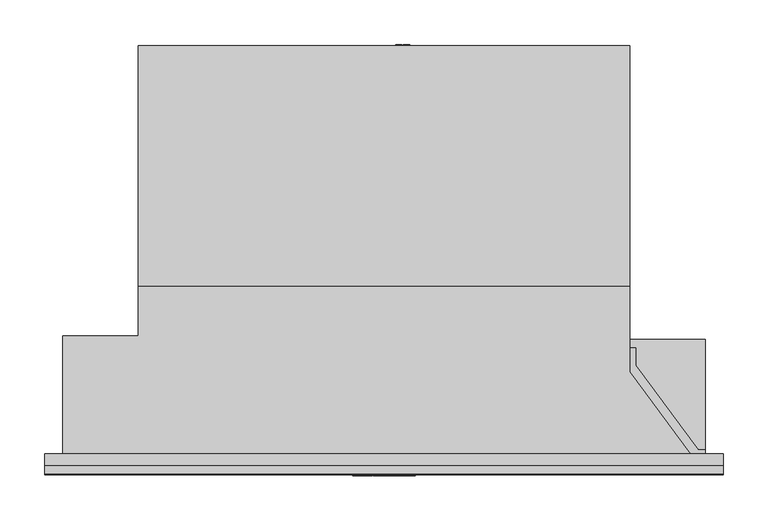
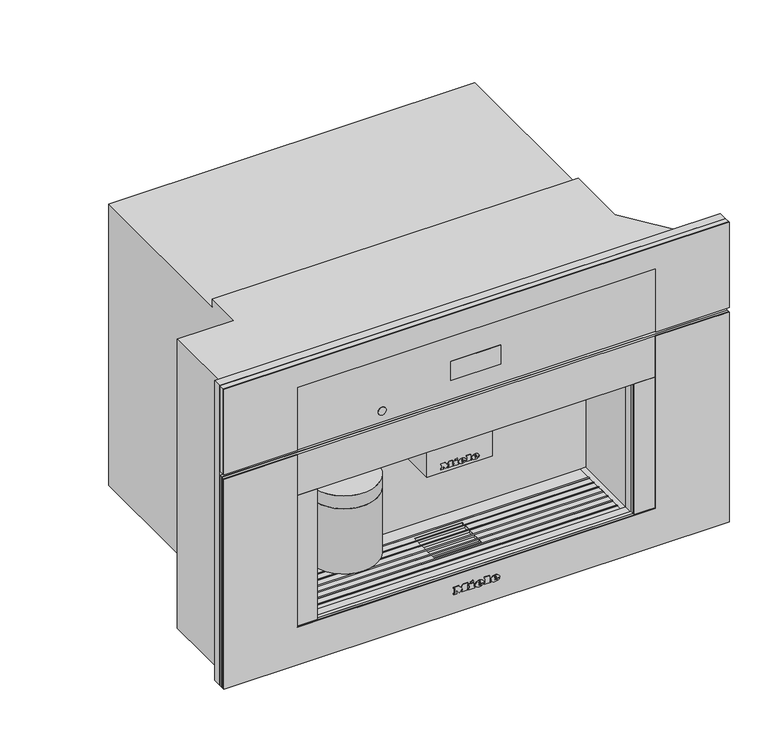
"""IFC4 building model written with IfcOpenShell, lengths in millimetres: proxy geometry, 11733830_USA_CVA7370_EDST-CLST : 29737040_USA_11733830_CVA7370_EDST-CLST."""

from ifc_helpers import new_model, si_unit, point, frame, frame_2d, origin, place, context, project, spatial, polyline, circle_curve, ellipse_curve, trimmed, segment, composite_curve, outline, extrude, faceted_brep, source, transform, mapped, element, save
from ifc_brep_helpers import plane_surface, cylinder_surface, revolved_surface, extruded_surface, advanced_brep


def specialty_equipment_d40f22d0(model_context):
    return source(origin(), model_context, "Body", "SolidModel", [
        extrude(outline(composite_curve([segment(trimmed(circle_curve(frame_2d((-14.0, 36.5)), 5.0), [point((-9.0, 36.5))], [point((-19.0, 36.5))], False, "CARTESIAN"), True, "CONTINUOUS"), segment(trimmed(circle_curve(frame_2d((-14.0, 36.5)), 5.0), [point((-19.0, 36.5))], [point((-9.0, 36.5))], False, "CARTESIAN"), True, "CONTINUOUS")], self_intersect=False)), frame((0.0, 0.0, 193.0), z_axis=(0.0, 0.0, 1.0), x_axis=(1.0, 0.0, 0.0)), (0.0, 0.0, 1.0), 5.0),
        extrude(outline(composite_curve([segment(trimmed(circle_curve(frame_2d((14.0, 36.5)), 5.0), [point((19.0, 36.5))], [point((9.0, 36.5))], False, "CARTESIAN"), True, "CONTINUOUS"), segment(trimmed(circle_curve(frame_2d((14.0, 36.5)), 5.0), [point((9.0, 36.5))], [point((19.0, 36.5))], False, "CARTESIAN"), True, "CONTINUOUS")], self_intersect=False)), frame((0.0, 0.0, 193.0), z_axis=(0.0, 0.0, 1.0), x_axis=(1.0, 0.0, 0.0)), (0.0, 0.0, 1.0), 5.0),
        extrude(outline(composite_curve([segment(trimmed(circle_curve(frame_2d((-156.5, 49.5)), 50.0), [point((-106.5, 49.5))], [point((-206.5, 49.5))], False, "CARTESIAN"), True, "CONTINUOUS"), segment(trimmed(circle_curve(frame_2d((-156.5, 49.5)), 50.0), [point((-206.5, 49.5))], [point((-106.5, 49.5))], False, "CARTESIAN"), True, "CONTINUOUS")], self_intersect=False)), frame((0.0, 0.0, 100.0), z_axis=(0.0, 0.0, 1.0), x_axis=(1.0, 0.0, 0.0)), (0.0, 0.0, 1.0), 103.0),
        extrude(outline(polyline([(-49.0, 95.0), (49.0, 95.0), (49.0, 20.0), (-49.0, 20.0), (-49.0, 95.0)])), frame((0.0, 0.0, 198.0), z_axis=(0.0, 0.0, 1.0), x_axis=(1.0, 0.0, 0.0)), (0.0, 0.0, 1.0), 75.0),
        extrude(outline(polyline([(479.0, 378.5), (479.0, -378.5), (4.0, -378.5), (4.0, 378.5), (479.0, 378.5)]), holes=[polyline([(273.0, 237.5), (63.0, 237.5), (63.0, -237.5), (273.0, -237.5), (273.0, 237.5)])]), frame((0.0, -13.0, 0.0), z_axis=(0.0, 1.0, 0.0), x_axis=(0.0, 0.0, 1.0)), (0.0, 0.0, 1.0), 13.0),
        extrude(outline(polyline([(281.0, 118.7), (281.0, 99.0591954), (350.457423, 4.7), (358.5, 4.7), (358.5, 0.0), (341.5, 0.0), (274.0, 91.7), (274.0, 118.7), (281.0, 118.7)])), frame((0.0, 0.0, 45.0), z_axis=(0.0, 0.0, 1.0), x_axis=(1.0, 0.0, 0.0)), (0.0, 0.0, 1.0), 34.0),
        faceted_brep([(-22.0, 400.0, 133.0), (55.0, 400.0, 133.0), (55.0, 400.0, 66.0), (35.0, 400.0, 66.0), (-22.0, 400.0, 89.0), (-22.0, 456.0, 133.0), (55.0, 456.0, 133.0), (55.0, 456.0, 66.0), (35.0, 456.0, 66.0), (-22.0, 456.0, 89.0), (358.5, 0.0, 0.0), (358.5, 127.7, 0.0), (358.5, 127.7, 45.0), (358.5, 0.0, 45.0), (-358.5, 0.0, 0.0), (-358.5, 0.0, 458.0), (-358.5, 131.7, 458.0), (-358.5, 131.7, 0.0), (-274.0, 131.7, 0.0), (-274.0, 456.0, 0.0), (274.0, 456.0, 0.0), (274.0, 127.7, 0.0), (274.0, 456.0, 446.0), (-274.0, 456.0, 446.0), (274.0, 187.0, 446.0), (-274.0, 187.0, 446.0), (274.0, 187.0, 458.0), (-274.0, 187.0, 458.0), (341.5, 0.0, 458.0), (274.0, 91.7, 458.0), (-274.0, 131.7, 458.0), (341.5, 0.0, 45.0), (237.5, 0.0, 273.0), (237.5, 0.0, 63.0), (229.5, 0.0, 63.0), (229.5, 0.0, 62.0), (-229.5, 0.0, 62.0), (-229.5, 0.0, 63.0), (-237.5, 0.0, 63.0), (-237.5, 0.0, 273.0), (237.5, 104.5, 273.0), (-237.5, 104.5, 273.0), (-237.5, 104.5, 63.0), (-229.5, 104.5, 63.0), (-229.5, 104.5, 62.0), (229.5, 104.5, 62.0), (229.5, 104.5, 63.0), (237.5, 104.5, 63.0), (-36.0, 76.0, 62.0), (36.0, 76.0, 62.0), (36.0, 25.0, 62.0), (-36.0, 25.0, 62.0), (36.0, 76.0, 58.0), (-36.0, 76.0, 58.0), (-36.0, 25.0, 58.0), (36.0, 25.0, 58.0), (274.0, 91.7, 45.0), (274.0, 127.7, 45.0)], [[[0, 1, 2, 3, 4]], [[1, 0, 5, 6]], [[2, 1, 6, 7]], [[3, 2, 7, 8]], [[4, 3, 8, 9]], [[0, 4, 9, 5]], [[10, 11, 12, 13]], [[14, 15, 16, 17]], [[10, 14, 17, 18, 19, 20, 21, 11]], [[22, 20, 19, 23], [6, 5, 9, 8, 7]], [[24, 22, 23, 25]], [[26, 24, 25, 27]], [[15, 28, 29, 26, 27, 30, 16]], [[15, 14, 10, 13, 31, 28], [32, 33, 34, 35, 36, 37, 38, 39]], [[40, 41, 42, 43, 44, 45, 46, 47]], [[40, 47, 33, 32]], [[33, 47, 46, 34]], [[42, 38, 37, 43]], [[42, 41, 39, 38]], [[41, 40, 32, 39]], [[45, 44, 36, 35], [48, 49, 50, 51]], [[36, 44, 43, 37]], [[45, 35, 34, 46]], [[52, 53, 54, 55]], [[53, 52, 49, 48]], [[54, 53, 48, 51]], [[55, 54, 51, 50]], [[52, 55, 50, 49]], [[21, 20, 22, 24, 26, 29, 56, 57]], [[18, 30, 27, 25, 23, 19]], [[11, 21, 57, 12]], [[57, 56, 31, 13, 12]], [[30, 18, 17, 16]], [[31, 56, 29, 28]]]),
        extrude(outline(polyline([(99.0, 28.8772152), (109.045631, 28.8772152), (109.045631, 21.6569179), (107.7899271, 21.6569179), (107.7899271, 27.6215114), (104.8076304, 27.6215114), (104.8076304, 21.9708439), (103.5519266, 21.9708439), (103.5519266, 27.6215114), (100.2557039, 27.6215114), (100.2557039, 21.499955), (99.0, 21.499955), (99.0, 28.8772152)])), frame((0.0, 456.0, 0.0), z_axis=(0.0, 1.0, 0.0), x_axis=(0.0, 0.0, 1.0)), (0.0, 0.0, 1.0), 1.0),
        extrude(outline(polyline([(99.0, 19.6163991), (109.045631, 19.6163991), (109.045631, 18.3606953), (100.2557039, 18.3606953), (100.2557039, 13.3378798), (99.0, 13.3378798), (99.0, 19.6163991)])), frame((0.0, 456.0, 0.0), z_axis=(0.0, 1.0, 0.0), x_axis=(0.0, 0.0, 1.0)), (0.0, 0.0, 1.0), 1.0),
        advanced_brep(
        [(55.0, 425.5, 104.0), (55.0, 410.5, 104.0), (28.5, 425.5, 104.0), (13.5, 410.5, 104.0), (28.5, 456.0, 104.0), (13.5, 456.0, 104.0)],
        [
            (0, 1, circle_curve(frame((55.0, 418.0, 104.0), z_axis=(1.0, 0.0, 0.0), x_axis=(0.0, -1.0, 0.0)), 7.5)),
            (1, 0, circle_curve(frame((55.0, 418.0, 104.0), z_axis=(1.0, 0.0, 0.0), x_axis=(0.0, -1.0, 0.0)), 7.5)),
            (0, 2),
            (2, 3, ellipse_curve(frame((21.0, 418.0, 104.0), z_axis=(0.7071067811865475, -0.7071067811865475, 0.0), x_axis=(0.7071067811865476, 0.7071067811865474, 0.0)), 10.6066017, 7.5)),
            (3, 1),
            (3, 2, ellipse_curve(frame((21.0, 418.0, 104.0), z_axis=(0.7071067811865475, -0.7071067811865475, 0.0), x_axis=(0.7071067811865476, 0.7071067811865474, 0.0)), 10.6066017, 7.5)),
            (4, 5, circle_curve(frame((21.0, 456.0, 104.0), z_axis=(0.0, 1.0, 0.0), x_axis=(-1.0, 0.0, 0.0)), 7.5)),
            (5, 4, circle_curve(frame((21.0, 456.0, 104.0), z_axis=(0.0, 1.0, 0.0), x_axis=(-1.0, 0.0, 0.0)), 7.5)),
            (2, 4),
            (5, 3),
        ],
        [
            plane_surface(frame((55.0, 418.0, 104.0), z_axis=(1.0, 0.0, 0.0), x_axis=(0.0, 0.0, 1.0))),
            cylinder_surface(frame((55.0, 418.0, 104.0), z_axis=(1.0, 0.0, 0.0), x_axis=(0.0, -1.0, 0.0)), 7.5),
            plane_surface(frame((21.0, 456.0, 104.0), z_axis=(0.0, 1.0, 0.0), x_axis=(0.0, 0.0, 1.0))),
            cylinder_surface(frame((21.0, 418.0, 104.0), z_axis=(0.0, -1.0, 0.0), x_axis=(-1.0, 0.0, 0.0)), 7.5),
        ],
        [
            (0, [[1, 2]]),
            (1, [[-1, 3, 4, 5]]),
            (1, [[-2, -5, 6, -3]]),
            (2, [[7, 8]]),
            (3, [[-4, 9, -8, 10]]),
            (3, [[-6, -10, -7, -9]]),
        ],
    ),
        advanced_brep(
        [(-110.0, 49.5, 252.0), (-203.0, 49.5, 252.0), (-206.5, 49.5, 223.5), (-106.5, 49.5, 223.5), (-110.0, 49.5, 273.0), (-203.0, 49.5, 273.0), (-156.5, 49.5, 273.0), (-106.5, 49.5, 203.0), (-206.5, 49.5, 203.0), (-156.5, 49.5, 203.0)],
        [
            (0, 1, circle_curve(frame((-156.5, 49.5, 252.0), z_axis=(0.0, 0.0, -1.0), x_axis=(-1.0, 0.0, 0.0)), 46.5)),
            (1, 2, circle_curve(frame((-206.7961166, 49.5, 238.0012775), z_axis=(0.0, 1.0, 0.0), x_axis=(-1.0, 0.0, 0.0)), 14.5043005)),
            (2, 3, circle_curve(frame((-156.5, 49.5, 223.5), z_axis=(0.0, 0.0, 1.0), x_axis=(-1.0, 0.0, 0.0)), 50.0)),
            (3, 0, circle_curve(frame((-106.2038834, 49.5, 238.0012775), z_axis=(0.0, 1.0, 0.0), x_axis=(1.0, 0.0, 0.0)), 14.5043005)),
            (4, 5, circle_curve(frame((-156.5, 49.5, 273.0), z_axis=(0.0, 0.0, -1.0), x_axis=(-1.0, 0.0, 0.0)), 46.5)),
            (5, 1),
            (0, 4),
            (6, 4),
            (4, 5, circle_curve(frame((-156.5, 49.5, 273.0), z_axis=(0.0, 0.0, 1.0), x_axis=(-1.0, 0.0, 0.0)), 46.5)),
            (5, 6),
            (7, 8, circle_curve(frame((-156.5, 49.5, 203.0), z_axis=(0.0, 0.0, -1.0), x_axis=(-1.0, 0.0, 0.0)), 50.0)),
            (8, 9),
            (9, 7),
            (8, 7, circle_curve(frame((-156.5, 49.5, 203.0), z_axis=(0.0, 0.0, -1.0), x_axis=(-1.0, 0.0, 0.0)), 50.0)),
            (2, 8),
            (7, 3),
            (2, 3, circle_curve(frame((-156.5, 49.5, 223.5), z_axis=(0.0, 0.0, -1.0), x_axis=(-1.0, 0.0, 0.0)), 50.0)),
            (1, 0, circle_curve(frame((-156.5, 49.5, 252.0), z_axis=(0.0, 0.0, -1.0), x_axis=(-1.0, 0.0, 0.0)), 46.5)),
        ],
        [
            revolved_surface(trimmed(ellipse_curve(frame((-206.7961166, 49.5, 238.0012775), z_axis=(0.0, -1.0, 0.0), x_axis=(-1.0, 0.0, 0.0)), 14.5043005, 14.5043005), [point((-206.5, 49.5, 223.5))], [point((-203.0, 49.5, 252.0))], True, "CARTESIAN"), (-156.5, 49.5, 388.7361736), (0.0, 0.0, 1.0)),
            cylinder_surface(frame((-156.5, 49.5, 388.7361736), z_axis=(0.0, 0.0, 1.0), x_axis=(-1.0, 0.0, 0.0)), 46.5),
            plane_surface(frame((-156.5, 49.5, 273.0), z_axis=(0.0, 0.0, 1.0), x_axis=(-1.0, 0.0, 0.0))),
            plane_surface(frame((-156.5, 49.5, 203.0), z_axis=(0.0, 0.0, -1.0), x_axis=(-1.0, 0.0, 0.0))),
            cylinder_surface(frame((-156.5, 49.5, 388.7361736), z_axis=(0.0, 0.0, 1.0), x_axis=(-1.0, 0.0, 0.0)), 50.0),
        ],
        [
            (0, [[1, 2, 3, 4]]),
            (1, [[5, 6, -1, 7]]),
            (2, [[8, 9, 10]]),
            (3, [[11, 12, 13]]),
            (3, [[14, -13, -12]]),
            (4, [[-3, 15, -11, 16]]),
            (4, [[17, -16, -14, -15]]),
            (0, [[18, -4, -17, -2]]),
            (1, [[-9, -7, -18, -6]]),
            (2, [[-10, -5, -8]]),
        ],
    ),
        faceted_brep([(229.5, 82.0925571, 60.0), (229.5, 80.0925571, 60.0), (-229.5, 80.0925571, 60.0), (-229.5, 82.0925571, 60.0), (229.5, 70.0550731, 60.0), (229.5, 68.0550731, 60.0), (-229.5, 68.0550731, 60.0), (-229.5, 70.0550731, 60.0), (229.5, 58.0175891, 60.0), (229.5, 56.0175891, 60.0), (-229.5, 56.0175891, 60.0), (-229.5, 58.0175891, 60.0), (229.5, 45.9801052, 60.0), (229.5, 43.9801052, 60.0), (-229.5, 43.9801052, 60.0), (-229.5, 45.9801052, 60.0), (229.5, 33.9426212, 60.0), (229.5, 31.9426212, 60.0), (-229.5, 31.9426212, 60.0), (-229.5, 33.9426212, 60.0), (229.5, 21.9776522, 60.0), (229.5, 19.9776522, 60.0), (-229.5, 19.9776522, 60.0), (-229.5, 21.9776522, 60.0), (229.5, 10.0, 60.0), (229.5, 8.0, 60.0), (-229.5, 8.0, 60.0), (-229.5, 10.0, 60.0), (-229.5, 45.9801052, 62.0), (-36.0, 45.9801052, 62.0), (-36.0, 45.9801052, 63.0), (-229.5, 45.9801052, 63.0), (-229.5, 45.9801052, 63.5), (229.5, 45.9801052, 63.5), (229.5, 45.9801052, 63.0), (36.0, 45.9801052, 63.0), (36.0, 45.9801052, 62.0), (229.5, 45.9801052, 62.0), (229.5, 19.9776522, 62.0), (229.5, 10.0, 62.0), (-229.5, 10.0, 62.0), (-229.5, 19.9776522, 62.0), (229.5, 43.9801052, 62.0), (229.5, 33.9426212, 62.0), (36.0, 33.9426212, 62.0), (36.0, 43.9801052, 62.0), (229.5, 56.0175891, 62.0), (36.0, 56.0175891, 62.0), (229.5, 68.0550731, 62.0), (229.5, 58.0175891, 62.0), (36.0, 58.0175891, 62.0), (36.0, 68.0550731, 62.0), (-229.5, 33.9426212, 62.0), (-229.5, 43.9801052, 62.0), (-36.0, 43.9801052, 62.0), (-36.0, 33.9426212, 62.0), (-229.5, 56.0175891, 62.0), (-36.0, 56.0175891, 62.0), (-229.5, 58.0175891, 62.0), (-229.5, 68.0550731, 62.0), (-36.0, 68.0550731, 62.0), (-36.0, 58.0175891, 62.0), (-229.5, 104.5, 62.0), (229.5, 104.5, 62.0), (229.5, 82.0925571, 62.0), (-229.5, 82.0925571, 62.0), (36.0, 76.0, 62.0), (-36.0, 76.0, 62.0), (-36.0, 70.0550731, 62.0), (-229.5, 70.0550731, 62.0), (-229.5, 80.0925571, 62.0), (229.5, 80.0925571, 62.0), (229.5, 70.0550731, 62.0), (36.0, 70.0550731, 62.0), (229.5, 0.0, 62.0), (-229.5, 0.0, 62.0), (-229.5, 8.0, 62.0), (229.5, 8.0, 62.0), (-36.0, 25.0, 62.0), (36.0, 25.0, 62.0), (36.0, 31.9426212, 62.0), (229.5, 31.9426212, 62.0), (229.5, 21.9776522, 62.0), (-229.5, 21.9776522, 62.0), (-229.5, 31.9426212, 62.0), (-36.0, 31.9426212, 62.0), (229.5, 104.5, 63.0), (-229.5, 104.5, 63.0), (-229.5, 82.0925571, 63.0), (229.5, 82.0925571, 63.0), (-229.5, 0.0, 63.0), (229.5, 0.0, 63.0), (229.5, 8.0, 63.0), (-229.5, 8.0, 63.0), (-36.0, 76.0, 63.0), (36.0, 76.0, 63.0), (36.0, 70.0550731, 63.0), (229.5, 70.0550731, 63.0), (229.5, 80.0925571, 63.0), (-229.5, 80.0925571, 63.0), (-229.5, 70.0550731, 63.0), (-36.0, 70.0550731, 63.0), (36.0, 25.0, 63.0), (-36.0, 25.0, 63.0), (-36.0, 31.9426212, 63.0), (-229.5, 31.9426212, 63.0), (-229.5, 21.9776522, 63.0), (229.5, 21.9776522, 63.0), (229.5, 31.9426212, 63.0), (36.0, 31.9426212, 63.0), (-229.5, 19.9776522, 63.0), (-229.5, 10.0, 63.0), (229.5, 10.0, 63.0), (229.5, 19.9776522, 63.0), (-229.5, 43.9801052, 63.0), (-229.5, 33.9426212, 63.0), (-36.0, 33.9426212, 63.0), (-36.0, 43.9801052, 63.0), (-229.5, 56.0175891, 63.0), (-36.0, 56.0175891, 63.0), (-229.5, 68.0550731, 63.0), (-229.5, 58.0175891, 63.0), (-36.0, 58.0175891, 63.0), (-36.0, 68.0550731, 63.0), (229.5, 33.9426212, 63.0), (229.5, 43.9801052, 63.0), (36.0, 43.9801052, 63.0), (36.0, 33.9426212, 63.0), (229.5, 56.0175891, 63.0), (36.0, 56.0175891, 63.0), (229.5, 58.0175891, 63.0), (229.5, 68.0550731, 63.0), (36.0, 68.0550731, 63.0), (36.0, 58.0175891, 63.0), (-229.5, 8.0, 63.5), (-229.5, 10.0, 63.5), (-229.5, 19.9776522, 63.5), (-229.5, 21.9776522, 63.5), (-229.5, 31.9426212, 63.5), (-229.5, 33.9426212, 63.5), (-229.5, 43.9801052, 63.5), (-229.5, 56.0175891, 63.5), (-229.5, 58.0175891, 63.5), (-229.5, 68.0550731, 63.5), (-229.5, 70.0550731, 63.5), (-229.5, 80.0925571, 63.5), (-229.5, 82.0925571, 63.5), (229.5, 82.0925571, 63.5), (229.5, 80.0925571, 63.5), (229.5, 70.0550731, 63.5), (229.5, 68.0550731, 63.5), (229.5, 58.0175891, 63.5), (229.5, 56.0175891, 63.5), (229.5, 43.9801052, 63.5), (229.5, 33.9426212, 63.5), (229.5, 31.9426212, 63.5), (229.5, 21.9776522, 63.5), (229.5, 19.9776522, 63.5), (229.5, 10.0, 63.5), (229.5, 8.0, 63.5)], [[[0, 1, 2, 3]], [[4, 5, 6, 7]], [[8, 9, 10, 11]], [[12, 13, 14, 15]], [[16, 17, 18, 19]], [[20, 21, 22, 23]], [[24, 25, 26, 27]], [[12, 15, 28, 29, 30, 31, 32, 33, 34, 35, 36, 37]], [[38, 39, 40, 41]], [[42, 43, 44, 45]], [[46, 37, 36, 47]], [[48, 49, 50, 51]], [[52, 53, 54, 55]], [[28, 56, 57, 29]], [[58, 59, 60, 61]], [[62, 63, 64, 65]], [[66, 67, 68, 69, 70, 71, 72, 73]], [[74, 75, 76, 77]], [[78, 79, 80, 81, 82, 83, 84, 85]], [[86, 87, 88, 89]], [[90, 91, 92, 93]], [[94, 95, 96, 97, 98, 99, 100, 101]], [[102, 103, 104, 105, 106, 107, 108, 109]], [[110, 111, 112, 113]], [[114, 115, 116, 117]], [[118, 31, 30, 119]], [[120, 121, 122, 123]], [[124, 125, 126, 127]], [[34, 128, 129, 35]], [[130, 131, 132, 133]], [[63, 62, 87, 86]], [[87, 62, 65, 3, 2, 70, 69, 7, 6, 59, 58, 11, 10, 56, 28, 15, 14, 53, 52, 19, 18, 84, 83, 23, 22, 41, 40, 27, 26, 76, 75, 90, 93, 134, 135, 111, 110, 136, 137, 106, 105, 138, 139, 115, 114, 140, 32, 31, 118, 141, 142, 121, 120, 143, 144, 100, 99, 145, 146, 88]], [[75, 74, 91, 90]], [[63, 86, 89, 147, 148, 98, 97, 149, 150, 131, 130, 151, 152, 128, 34, 33, 153, 125, 124, 154, 155, 108, 107, 156, 157, 113, 112, 158, 159, 92, 91, 74, 77, 25, 24, 39, 38, 21, 20, 82, 81, 17, 16, 43, 42, 13, 12, 37, 46, 9, 8, 49, 48, 5, 4, 72, 71, 1, 0, 64]], [[66, 95, 94, 67]], [[55, 54, 117, 116]], [[29, 57, 119, 30]], [[61, 60, 123, 122]], [[67, 94, 101, 68]], [[103, 78, 85, 104]], [[78, 103, 102, 79]], [[45, 44, 127, 126]], [[47, 36, 35, 129]], [[51, 50, 133, 132]], [[95, 66, 73, 96]], [[79, 102, 109, 80]], [[158, 135, 134, 159]], [[156, 137, 136, 157]], [[154, 139, 138, 155]], [[33, 32, 140, 153]], [[151, 142, 141, 152]], [[149, 144, 143, 150]], [[147, 146, 145, 148]], [[24, 27, 40, 39]], [[135, 158, 112, 111]], [[26, 25, 77, 76]], [[159, 134, 93, 92]], [[20, 23, 83, 82]], [[137, 156, 107, 106]], [[22, 21, 38, 41]], [[157, 136, 110, 113]], [[16, 19, 52, 55, 116, 115, 139, 154, 124, 127, 44, 43]], [[18, 17, 81, 80, 109, 108, 155, 138, 105, 104, 85, 84]], [[14, 13, 42, 45, 126, 125, 153, 140, 114, 117, 54, 53]], [[8, 11, 58, 61, 122, 121, 142, 151, 130, 133, 50, 49]], [[10, 9, 46, 47, 129, 128, 152, 141, 118, 119, 57, 56]], [[4, 7, 69, 68, 101, 100, 144, 149, 97, 96, 73, 72]], [[6, 5, 48, 51, 132, 131, 150, 143, 120, 123, 60, 59]], [[0, 3, 65, 64]], [[146, 147, 89, 88]], [[2, 1, 71, 70]], [[148, 145, 99, 98]]]),
        advanced_brep(
        [(27.088, -24.3, 36.7018), (27.088, -24.3, 37.8532), (34.7146, -24.3, 37.8532), (21.445, -24.3, 37.8532), (24.58, -24.3, 34.0), (34.5208, -24.3, 36.7018), (31.078, -24.3, 36.7018), (28.3648, -24.3, 35.425), (27.088, -24.3, 39.3124), (27.088, -24.3, 40.555), (29.0374, -24.3, 40.555), (29.0374, -24.3, 39.3124), (27.088, -23.3, 36.7018), (28.3648, -23.3, 35.425), (31.078, -23.3, 36.7018), (34.5208, -23.3, 36.7018), (24.58, -23.3, 34.0), (21.445, -23.3, 37.8532), (34.7146, -23.3, 37.8532), (27.088, -23.3, 37.8532), (27.088, -23.3, 39.3124), (29.0374, -23.3, 39.3124), (29.0374, -23.3, 40.555), (27.088, -23.3, 40.555)],
        [
            (0, 1),
            (1, 2),
            (2, 3, ellipse_curve(frame((28.0798, -24.3, 37.8532), z_axis=(0.0, -1.0, 0.0), x_axis=(-1.0, 0.0, 0.0)), 6.6348, 5.4834)),
            (3, 4, circle_curve(frame((25.8568622, -24.3, 38.2408), z_axis=(0.0, -1.0, 0.0), x_axis=(0.0, 0.0, -1.0)), 4.4288556)),
            (4, 5, circle_curve(frame((27.9469808, -24.3, 41.2504), z_axis=(0.0, -1.0, 0.0), x_axis=(0.0, 0.0, -1.0)), 7.9940516)),
            (5, 6),
            (6, 7, circle_curve(frame((28.9220588, -24.3, 37.762), z_axis=(0.0, 1.0, 0.0), x_axis=(0.0, 0.0, -1.0)), 2.4025208)),
            (7, 0, circle_curve(frame((28.3648, -24.3, 36.7018), z_axis=(0.0, 1.0, 0.0), x_axis=(0.0, 0.0, -1.0)), 1.2768)),
            (8, 9),
            (9, 10, circle_curve(frame((28.0627, -24.3, 40.555), z_axis=(0.0, 1.0, 0.0), x_axis=(0.0, 0.0, -1.0)), 0.9747)),
            (10, 11),
            (11, 8),
            (12, 13, circle_curve(frame((28.3648, -23.3, 36.7018), z_axis=(0.0, -1.0, 0.0), x_axis=(0.0, 0.0, -1.0)), 1.2768)),
            (13, 14, circle_curve(frame((28.9220588, -23.3, 37.762), z_axis=(0.0, -1.0, 0.0), x_axis=(0.0, 0.0, -1.0)), 2.4025208)),
            (14, 15),
            (15, 16, circle_curve(frame((27.9469808, -23.3, 41.2504), z_axis=(0.0, 1.0, 0.0), x_axis=(0.0, 0.0, -1.0)), 7.9940516)),
            (16, 17, circle_curve(frame((25.8568622, -23.3, 38.2408), z_axis=(0.0, 1.0, 0.0), x_axis=(0.0, 0.0, -1.0)), 4.4288556)),
            (17, 18, ellipse_curve(frame((28.0798, -23.3, 37.8532), z_axis=(0.0, 1.0, 0.0), x_axis=(-1.0, 0.0, 0.0)), 6.6348, 5.4834)),
            (18, 19),
            (19, 12),
            (20, 21),
            (21, 22),
            (22, 23, circle_curve(frame((28.0627, -23.3, 40.555), z_axis=(0.0, -1.0, 0.0), x_axis=(0.0, 0.0, -1.0)), 0.9747)),
            (23, 20),
            (0, 12),
            (19, 1),
            (18, 2),
            (5, 15),
            (14, 6),
            (17, 3),
            (13, 7),
            (16, 4),
            (8, 20),
            (23, 9),
            (22, 10),
            (21, 11),
        ],
        [
            plane_surface(frame((27.088, -24.3, 37.8532), z_axis=(0.0, -1.0, 0.0), x_axis=(0.0, 0.0, 1.0))),
            plane_surface(frame((27.088, -23.3, 37.8532), z_axis=(0.0, 1.0, 0.0), x_axis=(0.0, 0.0, -1.0))),
            plane_surface(frame((27.088, -24.3, 36.7018), z_axis=(1.0, 0.0, 0.0), x_axis=(0.0, 1.0, 0.0))),
            plane_surface(frame((27.088, -24.3, 37.8532), z_axis=(0.0, 0.0, -1.0), x_axis=(0.0, 1.0, 0.0))),
            plane_surface(frame((34.5208, -24.3, 36.7018), z_axis=(0.0, 0.0, 1.0), x_axis=(0.0, 1.0, 0.0))),
            extruded_surface(trimmed(ellipse_curve(frame((28.0798, -22.3, 37.8532), z_axis=(0.0, -1.0, 0.0), x_axis=(-1.0, 0.0, 0.0)), 6.6348, 5.4834), [point((34.7146, -22.3, 37.8532))], [point((21.445, -22.3, 37.8532))], True, "CARTESIAN"), (0.0, -1.0, 0.0), 1.0),
            revolved_surface(polyline([(28.9220588, -23.3, 35.3594792), (28.9220588, -24.3, 35.3594792)]), (28.9220588, -23.3, 37.762), (0.0, 1.0, 0.0)),
            revolved_surface(polyline([(28.3648, -23.3, 35.425), (28.3648, -24.3, 35.425)]), (28.3648, -23.3, 36.7018), (0.0, 1.0, 0.0)),
            cylinder_surface(frame((25.8568622, -23.3, 38.2408), z_axis=(0.0, -1.0, 0.0), x_axis=(0.0, 0.0, -1.0)), 4.4288556),
            cylinder_surface(frame((27.9469808, -23.3, 41.2504), z_axis=(0.0, -1.0, 0.0), x_axis=(0.0, 0.0, -1.0)), 7.9940516),
            plane_surface(frame((27.088, -24.3, 39.3124), z_axis=(1.0, 0.0, 0.0), x_axis=(0.0, 1.0, 0.0))),
            revolved_surface(polyline([(28.0627, -23.3, 39.5803), (28.0627, -24.3, 39.5803)]), (28.0627, -23.3, 40.555), (0.0, 1.0, 0.0)),
            plane_surface(frame((29.0374, -24.3, 40.555), z_axis=(-1.0, 0.0, 0.0), x_axis=(0.0, 1.0, 0.0))),
            plane_surface(frame((29.0374, -24.3, 39.3124), z_axis=(0.0, 0.0, 1.0), x_axis=(0.0, 1.0, 0.0))),
        ],
        [
            (0, [[1, 2, 3, 4, 5, 6, 7, 8], [9, 10, 11, 12]]),
            (1, [[13, 14, 15, 16, 17, 18, 19, 20], [21, 22, 23, 24]]),
            (2, [[-1, 25, -20, 26]]),
            (3, [[-2, -26, -19, 27]]),
            (4, [[-6, 28, -15, 29]]),
            (5, [[-3, -27, -18, 30]]),
            (6, [[-7, -29, -14, 31]]),
            (7, [[-8, -31, -13, -25]]),
            (8, [[-4, -30, -17, 32]]),
            (9, [[-5, -32, -16, -28]]),
            (10, [[-9, 33, -24, 34]]),
            (11, [[-10, -34, -23, 35]]),
            (12, [[-11, -35, -22, 36]]),
            (13, [[-12, -36, -21, -33]]),
        ],
    ),
        advanced_brep(
        [(3.2962, -24.3, 36.7018), (3.2962, -24.3, 37.8532), (10.9228, -24.3, 37.8532), (-2.3468, -24.3, 37.8532), (0.7882, -24.3, 34.0), (10.729, -24.3, 36.7018), (7.2862, -24.3, 36.7018), (4.573, -24.3, 35.425), (3.2962, -24.3, 39.3124), (3.2962, -24.3, 40.555), (5.2456, -24.3, 40.555), (5.2456, -24.3, 39.3124), (3.2962, -23.3, 36.7018), (4.573, -23.3, 35.425), (7.2862, -23.3, 36.7018), (10.729, -23.3, 36.7018), (0.7882, -23.3, 34.0), (-2.3468, -23.3, 37.8532), (10.9228, -23.3, 37.8532), (3.2962, -23.3, 37.8532), (3.2962, -23.3, 39.3124), (5.2456, -23.3, 39.3124), (5.2456, -23.3, 40.555), (3.2962, -23.3, 40.555)],
        [
            (0, 1),
            (1, 2),
            (2, 3, ellipse_curve(frame((4.288, -24.3, 37.8532), z_axis=(0.0, -1.0, 0.0), x_axis=(-1.0, 0.0, 0.0)), 6.6348, 5.4834)),
            (3, 4, circle_curve(frame((2.0650622, -24.3, 38.2408), z_axis=(0.0, -1.0, 0.0), x_axis=(0.0, 0.0, -1.0)), 4.4288556)),
            (4, 5, circle_curve(frame((4.1551808, -24.3, 41.2504), z_axis=(0.0, -1.0, 0.0), x_axis=(0.0, 0.0, -1.0)), 7.9940516)),
            (5, 6),
            (6, 7, circle_curve(frame((5.1302588, -24.3, 37.762), z_axis=(0.0, 1.0, 0.0), x_axis=(0.0, 0.0, -1.0)), 2.4025208)),
            (7, 0, circle_curve(frame((4.573, -24.3, 36.7018), z_axis=(0.0, 1.0, 0.0), x_axis=(0.0, 0.0, -1.0)), 1.2768)),
            (8, 9),
            (9, 10, circle_curve(frame((4.2709, -24.3, 40.555), z_axis=(0.0, 1.0, 0.0), x_axis=(0.0, 0.0, -1.0)), 0.9747)),
            (10, 11),
            (11, 8),
            (12, 13, circle_curve(frame((4.573, -23.3, 36.7018), z_axis=(0.0, -1.0, 0.0), x_axis=(0.0, 0.0, -1.0)), 1.2768)),
            (13, 14, circle_curve(frame((5.1302588, -23.3, 37.762), z_axis=(0.0, -1.0, 0.0), x_axis=(0.0, 0.0, -1.0)), 2.4025208)),
            (14, 15),
            (15, 16, circle_curve(frame((4.1551808, -23.3, 41.2504), z_axis=(0.0, 1.0, 0.0), x_axis=(0.0, 0.0, -1.0)), 7.9940516)),
            (16, 17, circle_curve(frame((2.0650622, -23.3, 38.2408), z_axis=(0.0, 1.0, 0.0), x_axis=(0.0, 0.0, -1.0)), 4.4288556)),
            (17, 18, ellipse_curve(frame((4.288, -23.3, 37.8532), z_axis=(0.0, 1.0, 0.0), x_axis=(-1.0, 0.0, 0.0)), 6.6348, 5.4834)),
            (18, 19),
            (19, 12),
            (20, 21),
            (21, 22),
            (22, 23, circle_curve(frame((4.2709, -23.3, 40.555), z_axis=(0.0, -1.0, 0.0), x_axis=(0.0, 0.0, -1.0)), 0.9747)),
            (23, 20),
            (0, 12),
            (19, 1),
            (18, 2),
            (5, 15),
            (14, 6),
            (17, 3),
            (13, 7),
            (16, 4),
            (8, 20),
            (23, 9),
            (22, 10),
            (21, 11),
        ],
        [
            plane_surface(frame((3.2962, -24.3, 37.8532), z_axis=(0.0, -1.0, 0.0), x_axis=(0.0, 0.0, 1.0))),
            plane_surface(frame((3.2962, -23.3, 37.8532), z_axis=(0.0, 1.0, 0.0), x_axis=(0.0, 0.0, -1.0))),
            plane_surface(frame((3.2962, -24.3, 36.7018), z_axis=(1.0, 0.0, 0.0), x_axis=(0.0, 1.0, 0.0))),
            plane_surface(frame((3.2962, -24.3, 37.8532), z_axis=(0.0, 0.0, -1.0), x_axis=(0.0, 1.0, 0.0))),
            plane_surface(frame((10.729, -24.3, 36.7018), z_axis=(0.0, 0.0, 1.0), x_axis=(0.0, 1.0, 0.0))),
            extruded_surface(trimmed(ellipse_curve(frame((4.288, -22.3, 37.8532), z_axis=(0.0, -1.0, 0.0), x_axis=(-1.0, 0.0, 0.0)), 6.6348, 5.4834), [point((10.9228, -22.3, 37.8532))], [point((-2.3468, -22.3, 37.8532))], True, "CARTESIAN"), (0.0, -1.0, 0.0), 1.0),
            revolved_surface(polyline([(5.1302588, -23.3, 35.3594792), (5.1302588, -24.3, 35.3594792)]), (5.1302588, -23.3, 37.762), (0.0, 1.0, 0.0)),
            revolved_surface(polyline([(4.573, -23.3, 35.425), (4.573, -24.3, 35.425)]), (4.573, -23.3, 36.7018), (0.0, 1.0, 0.0)),
            cylinder_surface(frame((2.0650622, -23.3, 38.2408), z_axis=(0.0, -1.0, 0.0), x_axis=(0.0, 0.0, -1.0)), 4.4288556),
            cylinder_surface(frame((4.1551808, -23.3, 41.2504), z_axis=(0.0, -1.0, 0.0), x_axis=(0.0, 0.0, -1.0)), 7.9940516),
            plane_surface(frame((3.2962, -24.3, 39.3124), z_axis=(1.0, 0.0, 0.0), x_axis=(0.0, 1.0, 0.0))),
            revolved_surface(polyline([(4.2709, -23.3, 39.5803), (4.2709, -24.3, 39.5803)]), (4.2709, -23.3, 40.555), (0.0, 1.0, 0.0)),
            plane_surface(frame((5.2456, -24.3, 40.555), z_axis=(-1.0, 0.0, 0.0), x_axis=(0.0, 1.0, 0.0))),
            plane_surface(frame((5.2456, -24.3, 39.3124), z_axis=(0.0, 0.0, 1.0), x_axis=(0.0, 1.0, 0.0))),
        ],
        [
            (0, [[1, 2, 3, 4, 5, 6, 7, 8], [9, 10, 11, 12]]),
            (1, [[13, 14, 15, 16, 17, 18, 19, 20], [21, 22, 23, 24]]),
            (2, [[-1, 25, -20, 26]]),
            (3, [[-2, -26, -19, 27]]),
            (4, [[-6, 28, -15, 29]]),
            (5, [[-3, -27, -18, 30]]),
            (6, [[-7, -29, -14, 31]]),
            (7, [[-8, -31, -13, -25]]),
            (8, [[-4, -30, -17, 32]]),
            (9, [[-5, -32, -16, -28]]),
            (10, [[-9, 33, -24, 34]]),
            (11, [[-10, -34, -23, 35]]),
            (12, [[-11, -35, -22, 36]]),
            (13, [[-12, -36, -21, -33]]),
        ],
    ),
        extrude(outline(polyline([(44.7274, -9.164), (42.8806, -8.2976), (44.6818, -4.433), (46.5286, -5.288), (44.7274, -9.164)])), frame((0.0, -24.3, 0.0), z_axis=(0.0, 1.0, 0.0), x_axis=(0.0, 0.0, 1.0)), (0.0, 0.0, 1.0), 1.0),
        extrude(outline(polyline([(42.6298, -11.9798), (40.5892, -11.9798), (40.5892, -10.6232), (35.9152, -10.6232), (35.9152, -11.9798), (34.0, -11.9798), (34.0, -2.9852), (35.9152, -2.9852), (35.9152, -4.3076), (42.6298, -4.3076), (42.6298, -11.9798)])), frame((0.0, -24.3, 0.0), z_axis=(0.0, 1.0, 0.0), x_axis=(0.0, 0.0, 1.0)), (0.0, 0.0, 1.0), 1.0),
        extrude(outline(polyline([(43.5418, 11.5612), (43.5418, 12.9292), (35.9152, 12.9292), (35.9152, 11.5612), (34.0, 11.5612), (34.0, 20.8066), (35.9152, 20.8066), (35.9152, 19.4044), (45.4, 19.4044), (45.4, 11.5612), (43.5418, 11.5612)])), frame((0.0, -24.3, 0.0), z_axis=(0.0, 1.0, 0.0), x_axis=(0.0, 0.0, 1.0)), (0.0, 0.0, 1.0), 1.0),
        extrude(outline(polyline([(43.5418, -34.7), (43.5418, -33.3206), (35.9152, -33.3206), (35.9152, -34.7), (34.0, -34.7), (34.0, -29.684), (35.9152, -29.684), (35.9152, -31.052), (40.7429247, -31.052), (34.0, -25.9562), (40.9402223, -20.8376), (35.9152, -20.8376), (35.9152, -22.2398), (34.0, -22.2398), (34.0, -13.1426), (35.9152, -13.1426), (35.9152, -14.5904), (43.5418, -14.5904), (43.5418, -13.1426), (45.4, -13.1426), (45.4, -20.0852), (41.125, -23.414), (45.4, -26.7542), (45.4, -34.7), (43.5418, -34.7)])), frame((0.0, -24.3, 0.0), z_axis=(0.0, 1.0, 0.0), x_axis=(0.0, 0.0, 1.0)), (0.0, 0.0, 1.0), 1.0),
        advanced_brep(
        [(22.348, 19.0, 205.5278), (22.348, 19.0, 206.4772), (28.6366, 19.0, 206.4772), (17.695, 19.0, 206.4772), (20.28, 19.0, 203.3), (28.4768, 19.0, 205.5278), (25.638, 19.0, 205.5278), (23.4008, 19.0, 204.475), (22.348, 19.0, 207.6804), (22.348, 19.0, 208.705), (23.9554, 19.0, 208.705), (23.9554, 19.0, 207.6804), (22.348, 20.0, 205.5278), (23.4008, 20.0, 204.475), (25.638, 20.0, 205.5278), (28.4768, 20.0, 205.5278), (20.28, 20.0, 203.3), (17.695, 20.0, 206.4772), (28.6366, 20.0, 206.4772), (22.348, 20.0, 206.4772), (22.348, 20.0, 207.6804), (23.9554, 20.0, 207.6804), (23.9554, 20.0, 208.705), (22.348, 20.0, 208.705)],
        [
            (0, 1),
            (1, 2),
            (2, 3, ellipse_curve(frame((23.1658, 19.0, 206.4772), z_axis=(0.0, -1.0, 0.0), x_axis=(-1.0, 0.0, 0.0)), 5.4708, 4.5214)),
            (3, 4, circle_curve(frame((21.3328513, 19.0, 206.7968), z_axis=(0.0, -1.0, 0.0), x_axis=(0.0, 0.0, -1.0)), 3.6518634)),
            (4, 5, circle_curve(frame((23.0562825, 19.0, 209.2784), z_axis=(0.0, -1.0, 0.0), x_axis=(0.0, 0.0, -1.0)), 6.5915864)),
            (5, 6),
            (6, 7, circle_curve(frame((23.8602941, 19.0, 206.402), z_axis=(0.0, 1.0, 0.0), x_axis=(0.0, 0.0, -1.0)), 1.981026)),
            (7, 0, circle_curve(frame((23.4008, 19.0, 205.5278), z_axis=(0.0, 1.0, 0.0), x_axis=(0.0, 0.0, -1.0)), 1.0528)),
            (8, 9),
            (9, 10, circle_curve(frame((23.1517, 19.0, 208.705), z_axis=(0.0, 1.0, 0.0), x_axis=(0.0, 0.0, -1.0)), 0.8037)),
            (10, 11),
            (11, 8),
            (12, 13, circle_curve(frame((23.4008, 20.0, 205.5278), z_axis=(0.0, -1.0, 0.0), x_axis=(0.0, 0.0, -1.0)), 1.0528)),
            (13, 14, circle_curve(frame((23.8602941, 20.0, 206.402), z_axis=(0.0, -1.0, 0.0), x_axis=(0.0, 0.0, -1.0)), 1.981026)),
            (14, 15),
            (15, 16, circle_curve(frame((23.0562825, 20.0, 209.2784), z_axis=(0.0, 1.0, 0.0), x_axis=(0.0, 0.0, -1.0)), 6.5915864)),
            (16, 17, circle_curve(frame((21.3328513, 20.0, 206.7968), z_axis=(0.0, 1.0, 0.0), x_axis=(0.0, 0.0, -1.0)), 3.6518634)),
            (17, 18, ellipse_curve(frame((23.1658, 20.0, 206.4772), z_axis=(0.0, 1.0, 0.0), x_axis=(-1.0, 0.0, 0.0)), 5.4708, 4.5214)),
            (18, 19),
            (19, 12),
            (20, 21),
            (21, 22),
            (22, 23, circle_curve(frame((23.1517, 20.0, 208.705), z_axis=(0.0, -1.0, 0.0), x_axis=(0.0, 0.0, -1.0)), 0.8037)),
            (23, 20),
            (0, 12),
            (19, 1),
            (18, 2),
            (5, 15),
            (14, 6),
            (17, 3),
            (13, 7),
            (16, 4),
            (8, 20),
            (23, 9),
            (22, 10),
            (21, 11),
        ],
        [
            plane_surface(frame((22.348, 19.0, 206.4772), z_axis=(0.0, -1.0, 0.0), x_axis=(0.0, 0.0, 1.0))),
            plane_surface(frame((22.348, 20.0, 206.4772), z_axis=(0.0, 1.0, 0.0), x_axis=(0.0, 0.0, -1.0))),
            plane_surface(frame((22.348, 19.0, 205.5278), z_axis=(1.0, 0.0, 0.0), x_axis=(0.0, 1.0, 0.0))),
            plane_surface(frame((22.348, 19.0, 206.4772), z_axis=(0.0, 0.0, -1.0), x_axis=(0.0, 1.0, 0.0))),
            plane_surface(frame((28.4768, 19.0, 205.5278), z_axis=(0.0, 0.0, 1.0), x_axis=(0.0, 1.0, 0.0))),
            extruded_surface(trimmed(ellipse_curve(frame((23.1658, 21.0, 206.4772), z_axis=(0.0, -1.0, 0.0), x_axis=(-1.0, 0.0, 0.0)), 5.4708, 4.5214), [point((28.6366, 21.0, 206.4772))], [point((17.695, 21.0, 206.4772))], True, "CARTESIAN"), (0.0, -1.0, 0.0), 1.0),
            revolved_surface(polyline([(23.8602941, 20.0, 204.420974), (23.8602941, 19.0, 204.420974)]), (23.8602941, 20.0, 206.402), (0.0, 1.0, 0.0)),
            revolved_surface(polyline([(23.4008, 20.0, 204.47500000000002), (23.4008, 19.0, 204.47500000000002)]), (23.4008, 20.0, 205.5278), (0.0, 1.0, 0.0)),
            cylinder_surface(frame((21.3328513, 20.0, 206.7968), z_axis=(0.0, -1.0, 0.0), x_axis=(0.0, 0.0, -1.0)), 3.6518634),
            cylinder_surface(frame((23.0562825, 20.0, 209.2784), z_axis=(0.0, -1.0, 0.0), x_axis=(0.0, 0.0, -1.0)), 6.5915864),
            plane_surface(frame((22.348, 19.0, 207.6804), z_axis=(1.0, 0.0, 0.0), x_axis=(0.0, 1.0, 0.0))),
            revolved_surface(polyline([(23.1517, 20.0, 207.90130000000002), (23.1517, 19.0, 207.90130000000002)]), (23.1517, 20.0, 208.705), (0.0, 1.0, 0.0)),
            plane_surface(frame((23.9554, 19.0, 208.705), z_axis=(-1.0, 0.0, 0.0), x_axis=(0.0, 1.0, 0.0))),
            plane_surface(frame((23.9554, 19.0, 207.6804), z_axis=(0.0, 0.0, 1.0), x_axis=(0.0, 1.0, 0.0))),
        ],
        [
            (0, [[1, 2, 3, 4, 5, 6, 7, 8], [9, 10, 11, 12]]),
            (1, [[13, 14, 15, 16, 17, 18, 19, 20], [21, 22, 23, 24]]),
            (2, [[-1, 25, -20, 26]]),
            (3, [[-2, -26, -19, 27]]),
            (4, [[-6, 28, -15, 29]]),
            (5, [[-3, -27, -18, 30]]),
            (6, [[-7, -29, -14, 31]]),
            (7, [[-8, -31, -13, -25]]),
            (8, [[-4, -30, -17, 32]]),
            (9, [[-5, -32, -16, -28]]),
            (10, [[-9, 33, -24, 34]]),
            (11, [[-10, -34, -23, 35]]),
            (12, [[-11, -35, -22, 36]]),
            (13, [[-12, -36, -21, -33]]),
        ],
    ),
        advanced_brep(
        [(2.7302, 19.0, 205.5278), (2.7302, 19.0, 206.4772), (9.0188, 19.0, 206.4772), (-1.9228, 19.0, 206.4772), (0.6622, 19.0, 203.3), (8.859, 19.0, 205.5278), (6.0202, 19.0, 205.5278), (3.783, 19.0, 204.475), (2.7302, 19.0, 207.6804), (2.7302, 19.0, 208.705), (4.3376, 19.0, 208.705), (4.3376, 19.0, 207.6804), (2.7302, 20.0, 205.5278), (3.783, 20.0, 204.475), (6.0202, 20.0, 205.5278), (8.859, 20.0, 205.5278), (0.6622, 20.0, 203.3), (-1.9228, 20.0, 206.4772), (9.0188, 20.0, 206.4772), (2.7302, 20.0, 206.4772), (2.7302, 20.0, 207.6804), (4.3376, 20.0, 207.6804), (4.3376, 20.0, 208.705), (2.7302, 20.0, 208.705)],
        [
            (0, 1),
            (1, 2),
            (2, 3, ellipse_curve(frame((3.548, 19.0, 206.4772), z_axis=(0.0, -1.0, 0.0), x_axis=(-1.0, 0.0, 0.0)), 5.4708, 4.5214)),
            (3, 4, circle_curve(frame((1.7150513, 19.0, 206.7968), z_axis=(0.0, -1.0, 0.0), x_axis=(0.0, 0.0, -1.0)), 3.6518634)),
            (4, 5, circle_curve(frame((3.4384825, 19.0, 209.2784), z_axis=(0.0, -1.0, 0.0), x_axis=(0.0, 0.0, -1.0)), 6.5915864)),
            (5, 6),
            (6, 7, circle_curve(frame((4.2424941, 19.0, 206.402), z_axis=(0.0, 1.0, 0.0), x_axis=(0.0, 0.0, -1.0)), 1.981026)),
            (7, 0, circle_curve(frame((3.783, 19.0, 205.5278), z_axis=(0.0, 1.0, 0.0), x_axis=(0.0, 0.0, -1.0)), 1.0528)),
            (8, 9),
            (9, 10, circle_curve(frame((3.5339, 19.0, 208.705), z_axis=(0.0, 1.0, 0.0), x_axis=(0.0, 0.0, -1.0)), 0.8037)),
            (10, 11),
            (11, 8),
            (12, 13, circle_curve(frame((3.783, 20.0, 205.5278), z_axis=(0.0, -1.0, 0.0), x_axis=(0.0, 0.0, -1.0)), 1.0528)),
            (13, 14, circle_curve(frame((4.2424941, 20.0, 206.402), z_axis=(0.0, -1.0, 0.0), x_axis=(0.0, 0.0, -1.0)), 1.981026)),
            (14, 15),
            (15, 16, circle_curve(frame((3.4384825, 20.0, 209.2784), z_axis=(0.0, 1.0, 0.0), x_axis=(0.0, 0.0, -1.0)), 6.5915864)),
            (16, 17, circle_curve(frame((1.7150513, 20.0, 206.7968), z_axis=(0.0, 1.0, 0.0), x_axis=(0.0, 0.0, -1.0)), 3.6518634)),
            (17, 18, ellipse_curve(frame((3.548, 20.0, 206.4772), z_axis=(0.0, 1.0, 0.0), x_axis=(-1.0, 0.0, 0.0)), 5.4708, 4.5214)),
            (18, 19),
            (19, 12),
            (20, 21),
            (21, 22),
            (22, 23, circle_curve(frame((3.5339, 20.0, 208.705), z_axis=(0.0, -1.0, 0.0), x_axis=(0.0, 0.0, -1.0)), 0.8037)),
            (23, 20),
            (0, 12),
            (19, 1),
            (18, 2),
            (5, 15),
            (14, 6),
            (17, 3),
            (13, 7),
            (16, 4),
            (8, 20),
            (23, 9),
            (22, 10),
            (21, 11),
        ],
        [
            plane_surface(frame((2.7302, 19.0, 206.4772), z_axis=(0.0, -1.0, 0.0), x_axis=(0.0, 0.0, 1.0))),
            plane_surface(frame((2.7302, 20.0, 206.4772), z_axis=(0.0, 1.0, 0.0), x_axis=(0.0, 0.0, -1.0))),
            plane_surface(frame((2.7302, 19.0, 205.5278), z_axis=(1.0, 0.0, 0.0), x_axis=(0.0, 1.0, 0.0))),
            plane_surface(frame((2.7302, 19.0, 206.4772), z_axis=(0.0, 0.0, -1.0), x_axis=(0.0, 1.0, 0.0))),
            plane_surface(frame((8.859, 19.0, 205.5278), z_axis=(0.0, 0.0, 1.0), x_axis=(0.0, 1.0, 0.0))),
            extruded_surface(trimmed(ellipse_curve(frame((3.548, 21.0, 206.4772), z_axis=(0.0, -1.0, 0.0), x_axis=(-1.0, 0.0, 0.0)), 5.4708, 4.5214), [point((9.0188, 21.0, 206.4772))], [point((-1.9228, 21.0, 206.4772))], True, "CARTESIAN"), (0.0, -1.0, 0.0), 1.0),
            revolved_surface(polyline([(4.2424941, 20.0, 204.420974), (4.2424941, 19.0, 204.420974)]), (4.2424941, 20.0, 206.402), (0.0, 1.0, 0.0)),
            revolved_surface(polyline([(3.783, 20.0, 204.47500000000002), (3.783, 19.0, 204.47500000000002)]), (3.783, 20.0, 205.5278), (0.0, 1.0, 0.0)),
            cylinder_surface(frame((1.7150513, 20.0, 206.7968), z_axis=(0.0, -1.0, 0.0), x_axis=(0.0, 0.0, -1.0)), 3.6518634),
            cylinder_surface(frame((3.4384825, 20.0, 209.2784), z_axis=(0.0, -1.0, 0.0), x_axis=(0.0, 0.0, -1.0)), 6.5915864),
            plane_surface(frame((2.7302, 19.0, 207.6804), z_axis=(1.0, 0.0, 0.0), x_axis=(0.0, 1.0, 0.0))),
            revolved_surface(polyline([(3.5339, 20.0, 207.90130000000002), (3.5339, 19.0, 207.90130000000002)]), (3.5339, 20.0, 208.705), (0.0, 1.0, 0.0)),
            plane_surface(frame((4.3376, 19.0, 208.705), z_axis=(-1.0, 0.0, 0.0), x_axis=(0.0, 1.0, 0.0))),
            plane_surface(frame((4.3376, 19.0, 207.6804), z_axis=(0.0, 0.0, 1.0), x_axis=(0.0, 1.0, 0.0))),
        ],
        [
            (0, [[1, 2, 3, 4, 5, 6, 7, 8], [9, 10, 11, 12]]),
            (1, [[13, 14, 15, 16, 17, 18, 19, 20], [21, 22, 23, 24]]),
            (2, [[-1, 25, -20, 26]]),
            (3, [[-2, -26, -19, 27]]),
            (4, [[-6, 28, -15, 29]]),
            (5, [[-3, -27, -18, 30]]),
            (6, [[-7, -29, -14, 31]]),
            (7, [[-8, -31, -13, -25]]),
            (8, [[-4, -30, -17, 32]]),
            (9, [[-5, -32, -16, -28]]),
            (10, [[-9, 33, -24, 34]]),
            (11, [[-10, -34, -23, 35]]),
            (12, [[-11, -35, -22, 36]]),
            (13, [[-12, -36, -21, -33]]),
        ],
    ),
        extrude(outline(polyline([(212.1454, -7.544), (210.6226, -6.8296), (212.1078, -3.643), (213.6306, -4.348), (212.1454, -7.544)])), frame((0.0, 19.0, 0.0), z_axis=(0.0, 1.0, 0.0), x_axis=(0.0, 0.0, 1.0)), (0.0, 0.0, 1.0), 1.0),
        extrude(outline(polyline([(210.4158, -9.8658), (208.7332, -9.8658), (208.7332, -8.7472), (204.8792, -8.7472), (204.8792, -9.8658), (203.3, -9.8658), (203.3, -2.4492), (204.8792, -2.4492), (204.8792, -3.5396), (210.4158, -3.5396), (210.4158, -9.8658)])), frame((0.0, 19.0, 0.0), z_axis=(0.0, 1.0, 0.0), x_axis=(0.0, 0.0, 1.0)), (0.0, 0.0, 1.0), 1.0),
        extrude(outline(polyline([(211.1678, 9.5452), (211.1678, 10.6732), (204.8792, 10.6732), (204.8792, 9.5452), (203.3, 9.5452), (203.3, 17.1686), (204.8792, 17.1686), (204.8792, 16.0124), (212.7, 16.0124), (212.7, 9.5452), (211.1678, 9.5452)])), frame((0.0, 19.0, 0.0), z_axis=(0.0, 1.0, 0.0), x_axis=(0.0, 0.0, 1.0)), (0.0, 0.0, 1.0), 1.0),
        extrude(outline(polyline([(211.1678, -28.6), (211.1678, -27.4626), (204.8792, -27.4626), (204.8792, -28.6), (203.3, -28.6), (203.3, -24.464), (204.8792, -24.464), (204.8792, -25.592), (208.8689247, -25.592), (203.3, -21.3902), (208.9902223, -17.1696), (204.8792, -17.1696), (204.8792, -18.3258), (203.3, -18.3258), (203.3, -10.8246), (204.8792, -10.8246), (204.8792, -12.0184), (211.1678, -12.0184), (211.1678, -10.8246), (212.7, -10.8246), (212.7, -16.5492), (209.175, -19.294), (212.7, -22.0482), (212.7, -28.6), (211.1678, -28.6)])), frame((0.0, 19.0, 0.0), z_axis=(0.0, 1.0, 0.0), x_axis=(0.0, 0.0, 1.0)), (0.0, 0.0, 1.0), 1.0),
        extrude(outline(polyline([(4.0, -378.5), (4.0, 378.5), (337.0, 378.5), (337.0, 268.5), (64.0, 268.5), (64.0, -268.5), (337.0, -268.5), (337.0, -378.5), (4.0, -378.5)])), frame((0.0, -23.3, 0.0), z_axis=(0.0, 1.0, 0.0), x_axis=(0.0, 0.0, 1.0)), (0.0, 0.0, 1.0), 1.3),
        extrude(outline(polyline([(337.0, 378.5), (337.0, -378.5), (4.0, -378.5), (4.0, 378.5), (337.0, 378.5)]), holes=[polyline([(272.0, 237.5), (64.0, 237.5), (64.0, -237.5), (272.0, -237.5), (272.0, 237.5)])]), frame((0.0, -18.0, 0.0), z_axis=(0.0, 1.0, 0.0), x_axis=(0.0, 0.0, 1.0)), (0.0, 0.0, 1.0), 5.0),
        extrude(outline(polyline([(-378.5, -18.0), (-237.5, -18.0), (-237.5, -22.0), (-378.5, -22.0), (-378.5, -18.0)])), frame((0.0, 0.0, 64.5), z_axis=(0.0, 0.0, 1.0), x_axis=(1.0, 0.0, 0.0)), (0.0, 0.0, 1.0), 207.0),
        extrude(outline(polyline([(237.5, -18.0), (378.5, -18.0), (378.5, -22.0), (237.5, -22.0), (237.5, -18.0)])), frame((0.0, 0.0, 64.5), z_axis=(0.0, 0.0, 1.0), x_axis=(1.0, 0.0, 0.0)), (0.0, 0.0, 1.0), 207.0),
        extrude(outline(polyline([(-378.5, -18.0), (378.5, -18.0), (378.5, -22.0), (-378.5, -22.0), (-378.5, -18.0)])), frame((0.0, 0.0, 272.0), z_axis=(0.0, 0.0, 1.0), x_axis=(1.0, 0.0, 0.0)), (0.0, 0.0, 1.0), 65.0),
        extrude(outline(polyline([(-378.5, -18.0), (378.5, -18.0), (378.5, -22.0), (-378.5, -22.0), (-378.5, -18.0)])), frame((0.0, 0.0, 4.0), z_axis=(0.0, 0.0, 1.0), x_axis=(1.0, 0.0, 0.0)), (0.0, 0.0, 1.0), 60.0),
        extrude(outline(composite_curve([segment(trimmed(circle_curve(frame_2d((361.0, -140.5745637)), 6.0), [point((361.0, -146.5745637))], [point((361.0, -134.5745637))], False, "CARTESIAN"), True, "CONTINUOUS"), segment(trimmed(circle_curve(frame_2d((361.0, -140.5745637)), 6.0), [point((361.0, -134.5745637))], [point((361.0, -146.5745637))], False, "CARTESIAN"), True, "CONTINUOUS")], self_intersect=False)), frame((0.0, -22.5, 0.0), z_axis=(0.0, 1.0, 0.0), x_axis=(0.0, 0.0, 1.0)), (0.0, 0.0, 1.0), 1.0),
        extrude(outline(polyline([(-37.5, -21.0), (37.5, -21.0), (37.5, -22.0), (-37.5, -22.0), (-37.5, -21.0)])), frame((0.0, 0.0, 373.0), z_axis=(0.0, 0.0, 1.0), x_axis=(1.0, 0.0, 0.0)), (0.0, 0.0, 1.0), 30.5),
        faceted_brep([(378.5, -22.0, 479.0), (-378.5, -22.0, 479.0), (-378.5, -22.0, 344.0), (378.5, -22.0, 344.0), (37.5, -22.0, 403.5), (37.5, -22.0, 373.0), (-37.5, -22.0, 373.0), (-37.5, -22.0, 403.5), (378.5, -13.0, 479.0), (378.5, -13.0, 344.0), (-378.5, -13.0, 344.0), (-378.5, -13.0, 479.0), (37.5, -21.0, 403.5), (-37.5, -21.0, 403.5), (-37.5, -21.0, 373.0), (37.5, -21.0, 373.0)], [[[0, 1, 2, 3], [4, 5, 6, 7]], [[8, 9, 10, 11]], [[1, 0, 8, 11]], [[2, 1, 11, 10]], [[3, 2, 10, 9]], [[0, 3, 9, 8]], [[12, 13, 14, 15]], [[12, 15, 5, 4]], [[15, 14, 6, 5]], [[14, 13, 7, 6]], [[13, 12, 4, 7]]]),
        extrude(outline(polyline([(344.0, -378.5), (344.0, -268.5), (444.0, -268.5), (444.0, 268.5), (344.0, 268.5), (344.0, 378.5), (479.0, 378.5), (479.0, -378.5), (344.0, -378.5)])), frame((0.0, -23.3, 0.0), z_axis=(0.0, 1.0, 0.0), x_axis=(0.0, 0.0, 1.0)), (0.0, 0.0, 1.0), 1.3),
    ])


if __name__ == "__main__":
    model = new_model("IFC4")
    model_context = context("Model", 3, world=origin())
    ifc_project = project(units=[si_unit("LENGTHUNIT", "METRE", prefix="MILLI")], contexts=[model_context])
    site = spatial("IfcSite", under=ifc_project)
    building = spatial("IfcBuilding", under=site)
    placement = place(None, origin())
    specialty_equipment_shape = specialty_equipment_d40f22d0(model_context)
    element("IfcBuildingElementProxy", 1, Name="11733830_USA_CVA7370_EDST-CLST : 29737040_USA_11733830_CVA7370_EDST-CLST", ObjectType="11733830_USA_CVA7370_EDST-CLST : 29737040_USA_11733830_CVA7370_EDST-CLST", at=placement, inside=building, context=model_context, shape_type="MappedRepresentation", body=[
        mapped(specialty_equipment_shape, transform((0.0, 0.0, 0.0), x_axis=(1.0, 0.0, 0.0), y_axis=(0.0, 1.0, 0.0), z_axis=(0.0, 0.0, 1.0))),
    ])
    save(model, "model.ifc")
